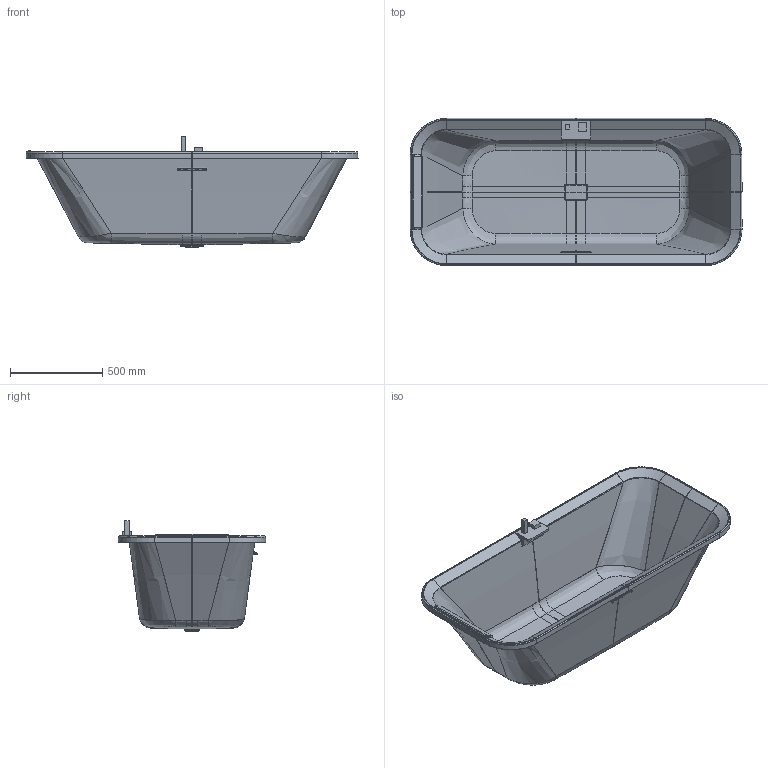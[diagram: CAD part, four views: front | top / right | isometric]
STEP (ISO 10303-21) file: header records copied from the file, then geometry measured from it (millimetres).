
FILE_DESCRIPTION(('STEP AP203'),'2;1');
FILE_NAME('DIV11898C2.stp','2017-07-25T11:06:46',(''),(''),'2016.1.120','THINKDESIGN','');
FILE_SCHEMA(('CONFIG_CONTROL_DESIGN'));
Length unit declared in the file: millimetre
Products named in the file (1): top
Bounding box: 1799.12 x 799.12 x 600.43 mm (x, y, z)
Volume: 9485332.8 mm3; surface area: 5992235.8 mm2
Topology: 5 solids, 5 shells, 864 faces, 2285 edges, 1380 vertices
Faces by surface type: plane 304, bspline 301, cylinder 259
Entity records: 40398 total; most frequent: CARTESIAN_POINT 21058, ORIENTED_EDGE 4550, DIRECTION 3273, EDGE_CURVE 2275, VERTEX_POINT 1380, VECTOR 1217, LINE 1217, AXIS2_PLACEMENT_3D 1028
